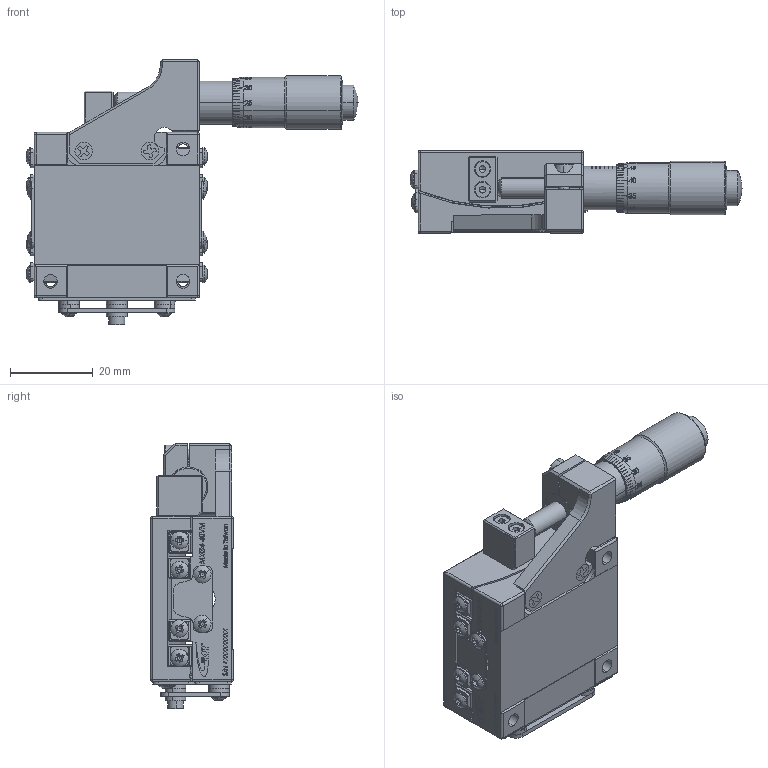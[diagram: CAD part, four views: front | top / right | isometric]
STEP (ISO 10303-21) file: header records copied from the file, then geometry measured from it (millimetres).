
FILE_DESCRIPTION (( 'STEP AP203' ), '1' );
FILE_NAME ('MXG4-40VM(«¬¿ý).STEP', '2014-11-17T05:39:59', ( '123' ), ( '' ), 'SwSTEP 2.0', 'SolidWorks 2014', '' );
FILE_SCHEMA (( 'CONFIG_CONTROL_DESIGN' ));
Length unit declared in the file: millimetre
Products named in the file (3): Group1^MXG4-40VM(型錄); Group2^MXG4-40VM(型錄); MXG4-40VM(型錄)
Assembly tree (2 placements, depth 2):
  MXG4-40VM(型錄)
    Group1^MXG4-40VM(型錄)
    Group2^MXG4-40VM(型錄)
Bounding box: 80.23 x 20 x 64.2 mm (x, y, z)
Volume: 36681.5 mm3; surface area: 19311.8 mm2
Topology: 2 solids, 2 shells, 2024 faces, 5699 edges, 3779 vertices
Faces by surface type: plane 1363, cylinder 323, bspline 147, cone 133, sphere 44, torus 14
Entity records: 77068 total; most frequent: CARTESIAN_POINT 25201, ORIENTED_EDGE 11306, DIRECTION 10021, EDGE_CURVE 5653, VERTEX_POINT 3779, VECTOR 3419, LINE 3419, AXIS2_PLACEMENT_3D 3301
